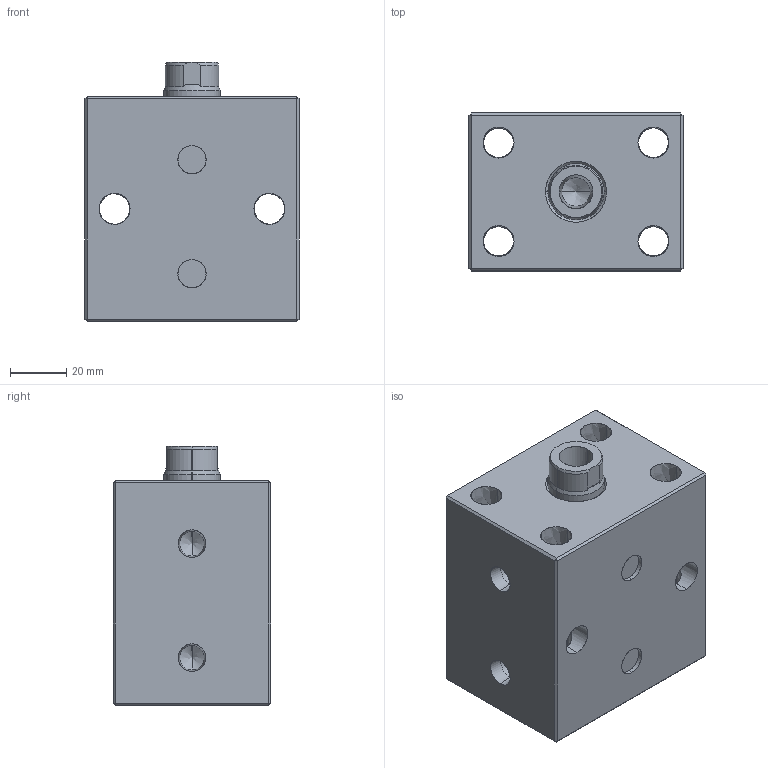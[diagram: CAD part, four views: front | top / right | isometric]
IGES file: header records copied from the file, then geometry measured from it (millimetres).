
Start section: SolidWorks IGES file using analytic representation for surfaces
Global section: file name: E:\ALL-SSVT-BLOCK\32-bore-igs model\BC04-32-25-F.IGS; native system: SolidWorks 2019; preprocessor: SolidWorks 2019; author: SSVT; date: 210825.122737; units: millimetre
Bounding box: 76 x 56 x 92 mm (x, y, z)
Surface area: 51164.5 mm2 (no closed solid volume)
Topology: 0 solids, 0 shells, 99 faces, 1669 edges, 1663 vertices
Faces by surface type: revolution 64, bspline 35
